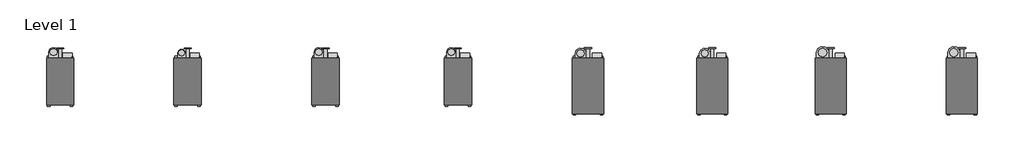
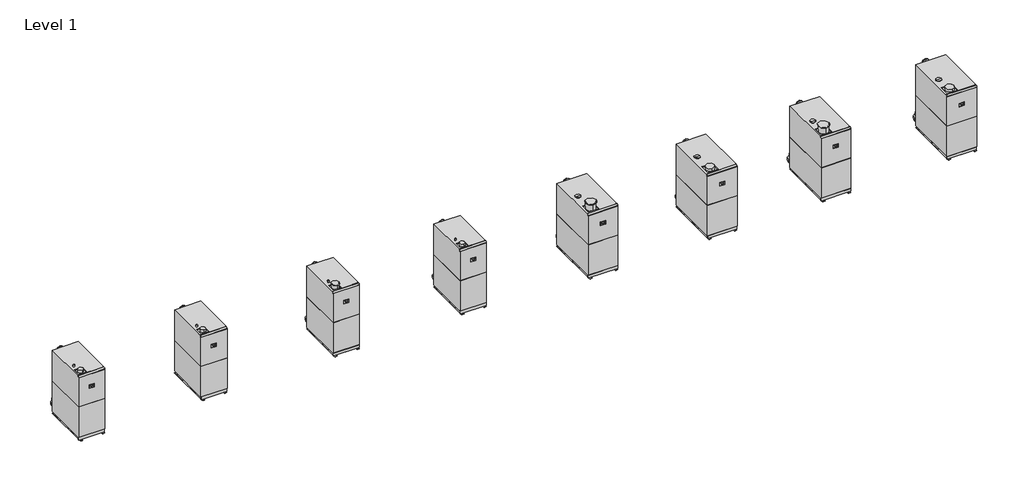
# One storey: 8 unitary equipment elements.
"""IFC4 building model written with IfcOpenShell, lengths in millimetres."""

from ifc_helpers import new_model, si_unit, origin, place, context, project, spatial, transform, mapped, element, save
from components import unitary_equipment_8b69aa03, unitary_equipment_db46aa15, unitary_equipment_64c63a85, unitary_equipment_a4b2b258, unitary_equipment_e0a2042f, unitary_equipment_0de9ce6d, unitary_equipment_1de9a510

model = new_model("IFC4")

# Units and contexts
model_context = context("Model", 3, world=origin())
ifc_project = project(units=[si_unit("LENGTHUNIT", "METRE", prefix="MILLI")], contexts=[model_context])

# Site, building, storey
site = spatial("IfcSite", under=ifc_project)
building = spatial("IfcBuilding", under=site)
storey = spatial("IfcBuildingStorey", under=building, Name="Level 1", Elevation=0.0)

# Unitary equipment
placement = place(None, origin())
unitary_equipment_shape = unitary_equipment_8b69aa03(model_context)
element("IfcUnitaryEquipment", 1, ObjectType="AIC_Boiler_Nesta_Plus_280-840 : N 280 FS Chimney Type C", at=placement, inside=storey, context=model_context, shape_type="MappedRepresentation", body=[
    mapped(unitary_equipment_shape, transform((-9713.1388949, 692.801737, 0.0), x_axis=(1.0, 0.0, 0.0), y_axis=(0.0, 1.0, 0.0), z_axis=(0.0, 0.0, 1.0))),
])
unitary_equipment_2_shape = unitary_equipment_db46aa15(model_context)
element("IfcUnitaryEquipment", 2, ObjectType="AIC_Boiler_Nesta_Plus_280-840 : N 420 FS Chimney Type C", at=placement, inside=storey, context=model_context, shape_type="MappedRepresentation", body=[
    mapped(unitary_equipment_2_shape, transform((-13258.6739403, 692.801737, 0.0), x_axis=(1.0, 0.0, 0.0), y_axis=(0.0, 1.0, 0.0), z_axis=(0.0, 0.0, 1.0))),
])
element("IfcUnitaryEquipment", 3, ObjectType="AIC_Boiler_Nesta_Plus_280-840 : N 420 FS Chimney Type C", at=placement, inside=storey, context=model_context, shape_type="MappedRepresentation", body=[
    mapped(unitary_equipment_2_shape, transform((-2192.07185, 692.801737, 0.0), x_axis=(1.0, 0.0, 0.0), y_axis=(0.0, 1.0, 0.0), z_axis=(0.0, 0.0, 1.0))),
])
unitary_equipment_3_shape = unitary_equipment_64c63a85(model_context)
element("IfcUnitaryEquipment", 4, ObjectType="AIC_Boiler_Nesta_Plus_280-840 : N 570 FS Chimney Type C", at=placement, inside=storey, context=model_context, shape_type="MappedRepresentation", body=[
    mapped(unitary_equipment_3_shape, transform((4885.1061241, 692.801737, 0.0), x_axis=(1.0, 0.0, 0.0), y_axis=(0.0, 1.0, 0.0), z_axis=(0.0, 0.0, 1.0))),
])
unitary_equipment_4_shape = unitary_equipment_a4b2b258(model_context)
element("IfcUnitaryEquipment", 5, ObjectType="AIC_Boiler_Nesta_Plus_280-840 : N 840 FS Chimney Type C", at=placement, inside=storey, context=model_context, shape_type="MappedRepresentation", body=[
    mapped(unitary_equipment_4_shape, transform((11833.0205736, 692.801737, 0.0), x_axis=(1.0, 0.0, 0.0), y_axis=(0.0, 1.0, 0.0), z_axis=(0.0, 0.0, 1.0))),
])
unitary_equipment_5_shape = unitary_equipment_e0a2042f(model_context)
element("IfcUnitaryEquipment", 6, ObjectType="AIC_Boiler_Nesta_Plus_280-840 : N 420 FS Chimney Type B", at=placement, inside=storey, context=model_context, shape_type="MappedRepresentation", body=[
    mapped(unitary_equipment_5_shape, transform((-5876.0823023, 692.801737, 0.0), x_axis=(1.0, 0.0, 0.0), y_axis=(0.0, 1.0, 0.0), z_axis=(0.0, 0.0, 1.0))),
])
unitary_equipment_6_shape = unitary_equipment_0de9ce6d(model_context)
element("IfcUnitaryEquipment", 7, ObjectType="AIC_Boiler_Nesta_Plus_280-840 : N 570 FS Chimney Type B", at=placement, inside=storey, context=model_context, shape_type="MappedRepresentation", body=[
    mapped(unitary_equipment_6_shape, transform((1427.3068399, 692.801737, 0.0), x_axis=(1.0, 0.0, 0.0), y_axis=(0.0, 1.0, 0.0), z_axis=(0.0, 0.0, 1.0))),
])
unitary_equipment_7_shape = unitary_equipment_1de9a510(model_context)
element("IfcUnitaryEquipment", 8, ObjectType="AIC_Boiler_Nesta_Plus_280-840 : N 840 FS Chimney Type B", at=placement, inside=storey, context=model_context, shape_type="MappedRepresentation", body=[
    mapped(unitary_equipment_7_shape, transform((8181.3260024, 692.801737, 0.0), x_axis=(1.0, 0.0, 0.0), y_axis=(0.0, 1.0, 0.0), z_axis=(0.0, 0.0, 1.0))),
])

save(model, "model.ifc")
